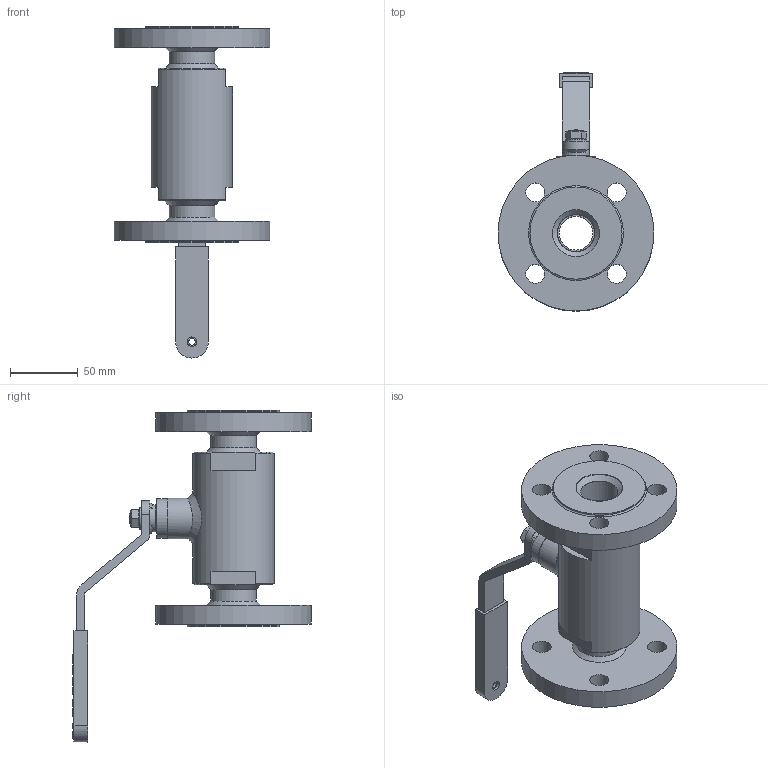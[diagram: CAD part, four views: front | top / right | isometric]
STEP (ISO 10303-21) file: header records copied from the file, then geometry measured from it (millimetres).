
FILE_DESCRIPTION(/* description */ (''),/* implementation_level */ '2;1');
FILE_NAME(/* name */ 'R:\Dokumenty_konstrukcyjne_INVENTOR\000_Zlozenie\25.41k.000.B1-10-40.00.stp',/* time_stamp */ '2022-09-19T11:21:04+02:00',/* author */ ('maat'),/* organization */ (''),/* preprocessor_version */ 'ST-DEVELOPER v15.6',/* originating_system */ 'Autodesk Inventor 2015',/* authorisation */ '');
FILE_SCHEMA (('AUTOMOTIVE_DESIGN { 1 0 10303 214 3 1 1 }'));
Length unit declared in the file: centimetre
Products named in the file (1): 25.41k.000.B1-10-40.00
Bounding box: 115 x 176.2 x 245 mm (x, y, z)
Volume: 542405.5 mm3; surface area: 127233.1 mm2
Topology: 2 solids, 23 shells, 593 faces, 1564 edges, 1018 vertices
Faces by surface type: plane 435, cylinder 98, cone 36, torus 14, sphere 7, bspline 3
Full cylindrical faces by diameter (mm): 2.236 x1, 3 x3, 4 x2, 5 x2, 7 x2, 8 x1, 8.4 x1, 14 x10, 14.3 x2, 14.5 x1, 16 x1, 18 x1, 19 x1, 20 x2, 22.5 x2, 23 x1, 25 x3, 26 x2, 27.3 x2, 29 x1, 30 x2, 33.7 x6, 34.2 x2, 34.5 x4, 40 x1, 46.4 x1, 60 x1, 68 x2, 115 x2
Entity records: 19081 total; most frequent: CARTESIAN_POINT 3989, ORIENTED_EDGE 2904, DIRECTION 2858, EDGE_CURVE 1429, LINE 1066, VECTOR 1066, VERTEX_POINT 985, AXIS2_PLACEMENT_3D 896
